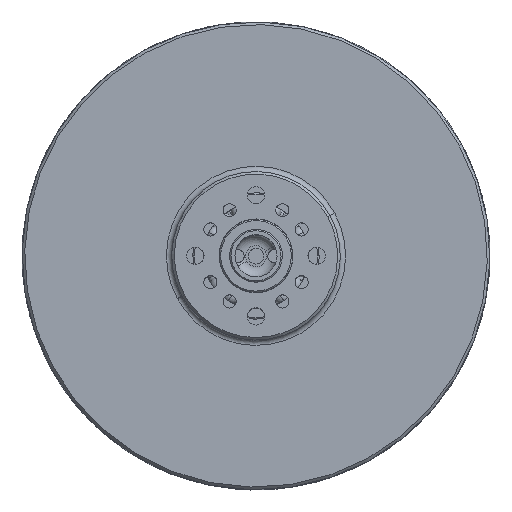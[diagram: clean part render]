
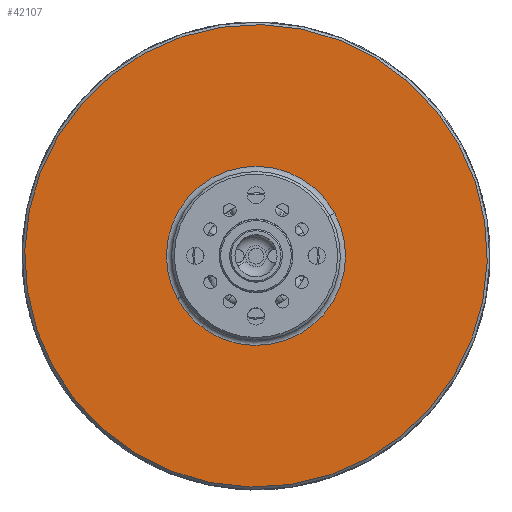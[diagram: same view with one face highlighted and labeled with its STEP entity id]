
A CAD part, top view. The second image highlights one B-rep face of the part: STEP entity #42107.
In plain terms, the highlighted planar face has unit normal (0, 0, 1).
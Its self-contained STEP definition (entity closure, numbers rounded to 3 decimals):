
#9817 = CARTESIAN_POINT ( 'NONE',  ( 0., 0., 8.25 ) ) ;
#11240 = DIRECTION ( 'NONE',  ( 0., 0., 1. ) ) ;
#11783 = VERTEX_POINT ( 'NONE', #65120 ) ;
#18988 = AXIS2_PLACEMENT_3D ( 'NONE', #104190, #11240, #90792 ) ;
#21111 = CIRCLE ( 'NONE', #18988, 43.9 ) ;
#27424 = DIRECTION ( 'NONE',  ( 0., 0., 1. ) ) ;
#32136 = CIRCLE ( 'NONE', #106879, 17. ) ;
#37469 = VERTEX_POINT ( 'NONE', #49175 ) ;
#38221 = FACE_BOUND ( 'NONE', #119611, .T. ) ;
#38712 = DIRECTION ( 'NONE',  ( 0., 0., 1. ) ) ;
#42107 = ADVANCED_FACE ( 'NONE', ( #38221, #59618 ), #108473, .T. ) ;
#45259 = AXIS2_PLACEMENT_3D ( 'NONE', #129710, #27424, #117086 ) ;
#48270 = CARTESIAN_POINT ( 'NONE',  ( -17., 0., 8.25 ) ) ;
#49175 = CARTESIAN_POINT ( 'NONE',  ( -14.919, -8.15, 8.25 ) ) ;
#56340 = AXIS2_PLACEMENT_3D ( 'NONE', #89538, #38712, #119673 ) ;
#58676 = DIRECTION ( 'NONE',  ( 1., 0., 0. ) ) ;
#59618 = FACE_OUTER_BOUND ( 'NONE', #80866, .T. ) ;
#60169 = EDGE_CURVE ( 'NONE', #112510, #37469, #32136, .T. ) ;
#62012 = ORIENTED_EDGE ( 'NONE', *, *, #111493, .T. ) ;
#65120 = CARTESIAN_POINT ( 'NONE',  ( 38.526, 21.047, 8.25 ) ) ;
#71978 = ORIENTED_EDGE ( 'NONE', *, *, #94087, .T. ) ;
#79042 = DIRECTION ( 'NONE',  ( 0., 0., 1. ) ) ;
#80866 = EDGE_LOOP ( 'NONE', ( #71978, #62012 ) ) ;
#83637 = CIRCLE ( 'NONE', #45259, 17. ) ;
#89538 = CARTESIAN_POINT ( 'NONE',  ( 0., 0., 8.25 ) ) ;
#90792 = DIRECTION ( 'NONE',  ( 1., 0., 0. ) ) ;
#94087 = EDGE_CURVE ( 'NONE', #11783, #121324, #21111, .T. ) ;
#99152 = ORIENTED_EDGE ( 'NONE', *, *, #60169, .F. ) ;
#100581 = CARTESIAN_POINT ( 'NONE',  ( 14.919, 8.15, 8.25 ) ) ;
#104190 = CARTESIAN_POINT ( 'NONE',  ( 0., 0., 8.25 ) ) ;
#106879 = AXIS2_PLACEMENT_3D ( 'NONE', #9817, #110161, #58676 ) ;
#108473 = PLANE ( 'NONE',  #119423 ) ;
#109377 = CARTESIAN_POINT ( 'NONE',  ( -38.526, -21.047, 8.25 ) ) ;
#110161 = DIRECTION ( 'NONE',  ( 0., 0., 1. ) ) ;
#111493 = EDGE_CURVE ( 'NONE', #121324, #11783, #118181, .T. ) ;
#112510 = VERTEX_POINT ( 'NONE', #100581 ) ;
#115020 = EDGE_CURVE ( 'NONE', #37469, #112510, #83637, .T. ) ;
#117086 = DIRECTION ( 'NONE',  ( 1., 0., 0. ) ) ;
#118181 = CIRCLE ( 'NONE', #56340, 43.9 ) ;
#119423 = AXIS2_PLACEMENT_3D ( 'NONE', #48270, #79042, #129188 ) ;
#119611 = EDGE_LOOP ( 'NONE', ( #132091, #99152 ) ) ;
#119673 = DIRECTION ( 'NONE',  ( 1., 0., 0. ) ) ;
#121324 = VERTEX_POINT ( 'NONE', #109377 ) ;
#129188 = DIRECTION ( 'NONE',  ( 1., 0., 0. ) ) ;
#129710 = CARTESIAN_POINT ( 'NONE',  ( 0., 0., 8.25 ) ) ;
#132091 = ORIENTED_EDGE ( 'NONE', *, *, #115020, .F. ) ;
